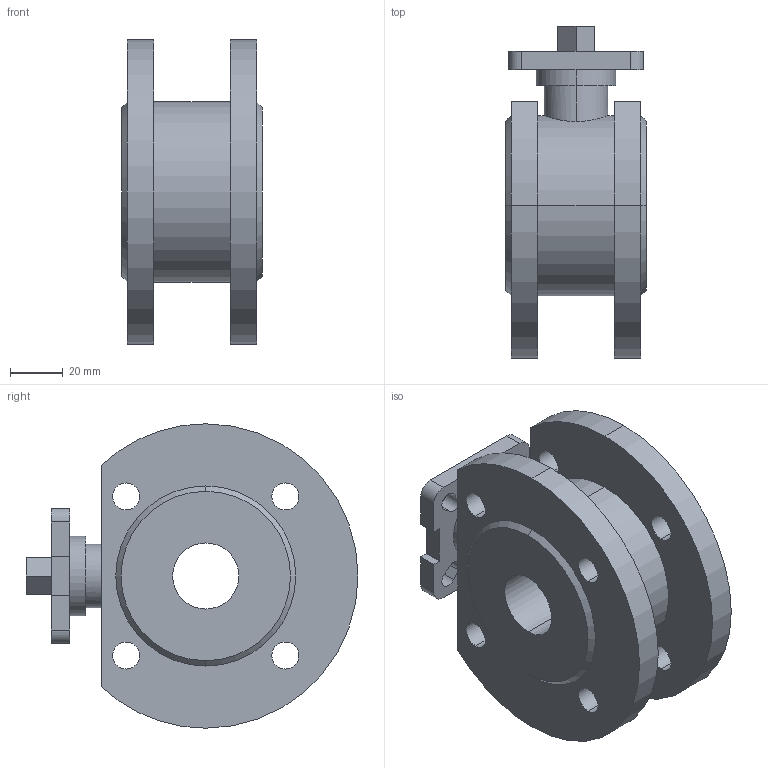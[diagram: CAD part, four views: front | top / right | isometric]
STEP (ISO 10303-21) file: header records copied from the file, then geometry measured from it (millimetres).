
FILE_DESCRIPTION (( 'STEP AP203' ), '1' );
FILE_NAME ('01.622I025016CP.STEP', '2018-10-23T07:14:35', ( '' ), ( '' ), 'SwSTEP 2.0', 'SolidWorks 2014', '' );
FILE_SCHEMA (( 'CONFIG_CONTROL_DESIGN' ));
Length unit declared in the file: millimetre
Products named in the file (1): 01.622I025016CP
Bounding box: 53 x 125.4 x 115 mm (x, y, z)
Volume: 299753.8 mm3; surface area: 55853 mm2
Topology: 1 solids, 1 shells, 86 faces, 228 edges, 152 vertices
Faces by surface type: cylinder 46, plane 36, cone 4
Entity records: 2933 total; most frequent: CARTESIAN_POINT 565, DIRECTION 498, ORIENTED_EDGE 456, EDGE_CURVE 228, AXIS2_PLACEMENT_3D 185, VERTEX_POINT 152, LINE 128, VECTOR 128
